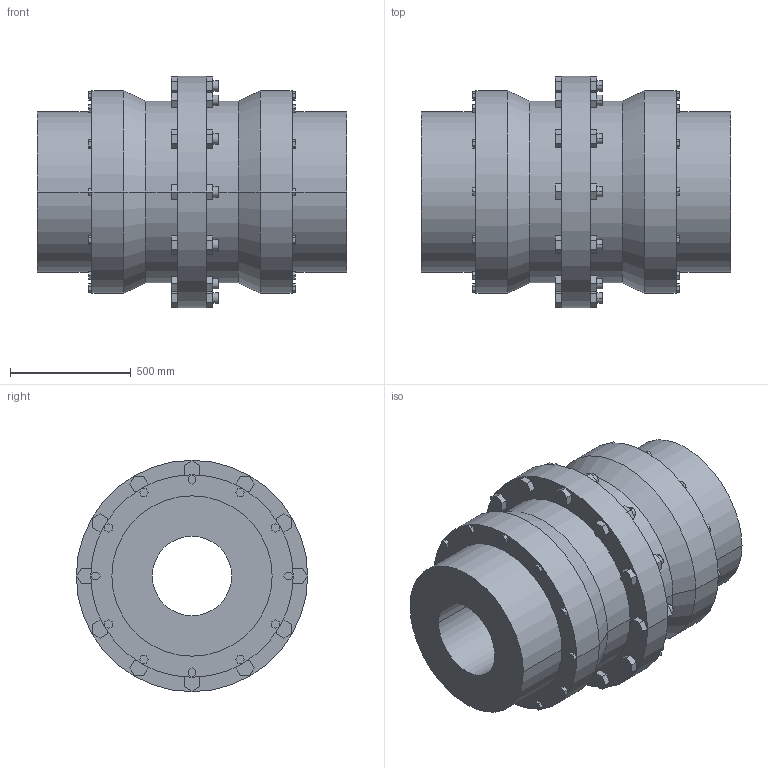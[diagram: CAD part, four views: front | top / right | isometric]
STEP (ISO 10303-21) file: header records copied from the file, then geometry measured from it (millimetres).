
FILE_DESCRIPTION((''),'2;1');
FILE_NAME('A19716900-0_ASM','2019-05-23T',('AB_Roschiwal'),('RENK AG'),'PRO/ENGINEER BY PARAMETRIC TECHNOLOGY CORPORATION, 2015440','PRO/ENGINEER BY PARAMETRIC TECHNOLOGY CORPORATION, 2015440','');
FILE_SCHEMA(('CONFIG_CONTROL_DESIGN'));
Length unit declared in the file: millimetre
Products named in the file (3): SBK400_GEHAEUSE; SBK400_NABE; A19716900-0_ASM
Assembly tree (3 placements, depth 2):
  A19716900-0_ASM
    SBK400_GEHAEUSE
    SBK400_NABE  x2
Bounding box: 1283 x 960 x 960 mm (x, y, z)
Volume: 378520174.1 mm3; surface area: 9036416.1 mm2
Topology: 3 solids, 3 shells, 422 faces, 1036 edges, 688 vertices
Faces by surface type: plane 362, cylinder 56, cone 4
Entity records: 12052 total; most frequent: CARTESIAN_POINT 2100, ORIENTED_EDGE 2024, DIRECTION 1940, EDGE_CURVE 1012, VECTOR 916, LINE 916, VERTEX_POINT 672, AXIS2_PLACEMENT_3D 512
